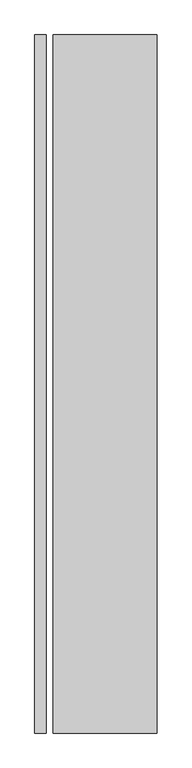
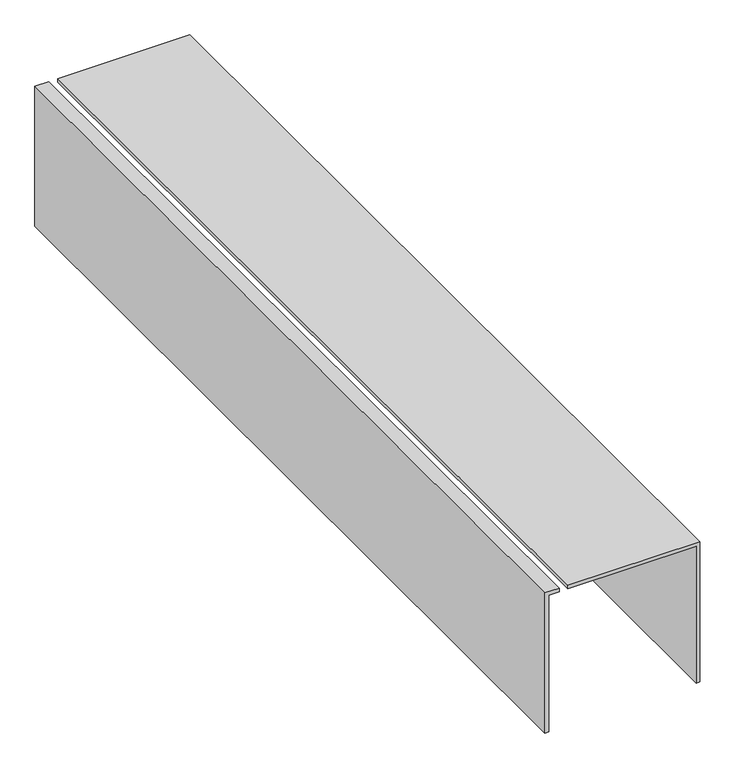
"""IFC4 building model written with IfcOpenShell, lengths in millimetres: furniture geometry, Cenefa cortina de enrollar : Cenefa cortina de enrollar."""

import ifcopenshell
import ifcopenshell.guid

model = None  # the IFC model being written
_history = None  # IfcOwnerHistory: only IFC2X3 demands one
_inside = {}  # id of a spatial element -> (the spatial element, [elements in it])
_under = {}  # id of a project, library or spatial element -> (it, [spatial elements below it])
_declared = {}  # id of a project -> (the project, [libraries it declares])
_typed = {}  # id of a type object -> (the type object, [elements of that type])
_made_of = {}  # id of a material, layer set ... -> (it, [elements and type objects made of it])


def new_model(schema):
    """Start an empty IFC model of exactly this schema.

    Asked for "IFC4X3", IfcOpenShell would pick the latest addendum, in which some entities
    have other attributes; the version numbers below select the first issue.
    IFC2X3 requires an IfcOwnerHistory on every rooted entity: one is made here for all.
    """
    global model, _history
    if schema == "IFC4X3":
        model = ifcopenshell.file(schema_version=(4, 3, 0, 0))
    else:
        model = ifcopenshell.file(schema=schema)
    _inside.clear()
    _under.clear()
    _declared.clear()
    _typed.clear()
    _made_of.clear()
    _history = None
    if model.schema == "IFC2X3":
        org = make("IfcOrganization", Name="unknown")
        user = make(
            "IfcPersonAndOrganization",
            ThePerson=make("IfcPerson", FamilyName="unknown"),
            TheOrganization=org,
        )
        app = make(
            "IfcApplication",
            ApplicationDeveloper=org,
            Version="unknown",
            ApplicationFullName="unknown",
            ApplicationIdentifier="unknown",
        )
        _history = make(
            "IfcOwnerHistory",
            OwningUser=user,
            OwningApplication=app,
            ChangeAction="ADDED",
            CreationDate=0,
        )
    return model


def make(cls, **values):
    """One entity of the class cls with the attributes given. An attribute that is None is left unset."""
    return model.create_entity(
        cls, **{name: value for name, value in values.items() if value is not None}
    )


def rooted(cls, **values):
    """An entity with a GlobalId (a new one), such as an element, a storey or a relation."""
    return make(cls, GlobalId=ifcopenshell.guid.new(), OwnerHistory=_history, **values)


def si_unit(unit_type, name, prefix=None):
    """IfcSIUnit, for example si_unit("LENGTHUNIT", "METRE", prefix="MILLI")."""
    return make("IfcSIUnit", UnitType=unit_type, Prefix=prefix, Name=name)


def assignment(units):
    """IfcUnitAssignment: the units of a project."""
    return None if units is None else make("IfcUnitAssignment", Units=units)


def point(xyz):
    """IfcCartesianPoint."""
    return None if xyz is None else make("IfcCartesianPoint", Coordinates=xyz)


def direction(xyz):
    """IfcDirection."""
    return None if xyz is None else make("IfcDirection", DirectionRatios=xyz)


def frame(location, z_axis=None, x_axis=None):
    """IfcAxis2Placement3D, a coordinate frame: its origin and axes. An axis left out is left unset."""
    return make(
        "IfcAxis2Placement3D",
        Location=point(location),
        Axis=direction(z_axis),
        RefDirection=direction(x_axis),
    )


def origin():
    """The frame at (0, 0, 0) with its axes left unset."""
    return frame((0.0, 0.0, 0.0))


def place(relative_to, where):
    """IfcLocalPlacement: puts the frame where relative to a parent placement (None: the world)."""
    return make(
        "IfcLocalPlacement", PlacementRelTo=relative_to, RelativePlacement=where
    )


def context(
    kind, dimensions, precision=None, world=None, true_north=None, identifier=None
):
    """IfcGeometricRepresentationContext, for example the 3D "Model" context."""
    return make(
        "IfcGeometricRepresentationContext",
        ContextIdentifier=identifier,
        ContextType=kind,
        CoordinateSpaceDimension=dimensions,
        Precision=precision,
        WorldCoordinateSystem=world,
        TrueNorth=true_north,
    )


def project(units=None, contexts=None):
    """IfcProject with its units and contexts."""
    return rooted(
        "IfcProject",
        Name="project",
        RepresentationContexts=contexts,
        UnitsInContext=assignment(units),
    )


def spatial(cls, under=None, at=None, **own):
    """A site, building, storey or space (cls), placed at a placement, below another one or the project."""
    s = rooted(cls, ObjectPlacement=at, **own)
    if under is not None:
        _under.setdefault(under.id(), (under, []))[1].append(s)
    return s


def polyline(points):
    """IfcPolyline through the points."""
    return make("IfcPolyline", Points=[point(p) for p in points])


def outline(outer, holes=None, kind="AREA"):
    """IfcArbitraryClosedProfileDef: a profile drawn as a closed curve; with holes, ...WithVoids."""
    if holes is None:
        return make("IfcArbitraryClosedProfileDef", ProfileType=kind, OuterCurve=outer)
    return make(
        "IfcArbitraryProfileDefWithVoids",
        ProfileType=kind,
        OuterCurve=outer,
        InnerCurves=holes,
    )


def extrude(swept, where, along, depth):
    """IfcExtrudedAreaSolid: the profile swept, set in the frame where, extruded along a direction by depth."""
    return make(
        "IfcExtrudedAreaSolid",
        SweptArea=swept,
        Position=where,
        ExtrudedDirection=direction(along),
        Depth=depth,
    )


def shape(context_of_items, identifier, shape_type, items):
    """IfcShapeRepresentation: the items that make up one representation, for example the "Body"."""
    return make(
        "IfcShapeRepresentation",
        ContextOfItems=context_of_items,
        RepresentationIdentifier=identifier,
        RepresentationType=shape_type,
        Items=items,
    )


def source(mapping_origin, context_of_items, identifier, shape_type, items):
    """IfcRepresentationMap: a shape defined once, which mapped items show again and again."""
    return make(
        "IfcRepresentationMap",
        MappingOrigin=mapping_origin,
        MappedRepresentation=shape(context_of_items, identifier, shape_type, items),
    )


def transform(
    local_origin,
    x_axis=None,
    y_axis=None,
    z_axis=None,
    scale=None,
    scale2=None,
    scale3=None,
    uniform=True,
):
    """IfcCartesianTransformationOperator3D, or its non-uniform kind. x_axis, y_axis, z_axis: its Axis1, 2, 3."""
    if uniform:
        return make(
            "IfcCartesianTransformationOperator3D",
            Axis1=direction(x_axis),
            Axis2=direction(y_axis),
            LocalOrigin=point(local_origin),
            Scale=scale,
            Axis3=direction(z_axis),
        )
    return make(
        "IfcCartesianTransformationOperator3DnonUniform",
        Axis1=direction(x_axis),
        Axis2=direction(y_axis),
        LocalOrigin=point(local_origin),
        Scale=scale,
        Axis3=direction(z_axis),
        Scale2=scale2,
        Scale3=scale3,
    )


def mapped(mapping_source, mapping_target):
    """IfcMappedItem: shows the shape of a source again, moved by a transform."""
    return make(
        "IfcMappedItem", MappingSource=mapping_source, MappingTarget=mapping_target
    )


def made_of(thing, what):
    """Note that an element or type object is made of a material, layer set ...; save() writes the relation."""
    if what is not None:
        _made_of.setdefault(what.id(), (what, []))[1].append(thing)
    return thing


def element(
    cls,
    number,
    at=None,
    inside=None,
    cuts=None,
    type_object=None,
    material=None,
    context=None,
    identifier="Body",
    shape_type=None,
    held_by="IfcProductDefinitionShape",
    body=None,
    shapes=None,
    **own,
):
    """One element of the class cls, such as IfcWall. Its Tag is "e" and its number.

    at: its placement. inside: the storey or other place that contains it. cuts: it is an
    opening in that element (IfcRelVoidsElement). A single representation is given by context,
    identifier, shape_type and body (its items); several are given by shapes. held_by: the class
    of the entity that holds the representations. save() writes the other relations.
    """
    e = rooted(cls, Tag="e%d" % number, ObjectPlacement=at, **own)
    if body is not None:
        shapes = [shape(context, identifier, shape_type, body)]
    if shapes is not None:
        e.Representation = make(held_by, Representations=shapes)
    if inside is not None:
        _inside.setdefault(inside.id(), (inside, []))[1].append(e)
    if cuts is not None:
        rooted(
            "IfcRelVoidsElement", RelatingBuildingElement=cuts, RelatedOpeningElement=e
        )
    if type_object is not None:
        _typed.setdefault(type_object.id(), (type_object, []))[1].append(e)
    return made_of(e, material)


def aggregate(whole, parts):
    """IfcRelAggregates: a whole, such as a stair, and the parts it consists of."""
    return rooted("IfcRelAggregates", RelatingObject=whole, RelatedObjects=parts)


def save(model, path):
    """Write the relations noted so far, then the file.

    IfcRelAggregates (storeys below a building ...), IfcRelContainedInSpatialStructure (elements
    in a storey), IfcRelDefinesByType, IfcRelAssociatesMaterial and IfcRelDeclares: one each for
    every whole, place, type object, material and project.
    """
    for whole, parts in _under.values():
        aggregate(whole, parts)
    for where, things in _inside.values():
        rooted(
            "IfcRelContainedInSpatialStructure",
            RelatedElements=things,
            RelatingStructure=where,
        )
    for kind, things in _typed.values():
        rooted("IfcRelDefinesByType", RelatedObjects=things, RelatingType=kind)
    for what, things in _made_of.values():
        rooted("IfcRelAssociatesMaterial", RelatedObjects=things, RelatingMaterial=what)
    for by, libraries in _declared.values():
        rooted("IfcRelDeclares", RelatingContext=by, RelatedDefinitions=libraries)
    model.write(path)


def furniture_4eb7cf04(model_context):
    return source(origin(), model_context, "Body", "SweptSolid", [
        extrude(outline(polyline([(500.0, -261.25), (0.0, -261.25), (0.0, -248.75), (487.5, -248.75), (487.5, -213.75), (500.0, -213.75), (500.0, -261.25)])), frame((0.0, 0.0, 0.0), z_axis=(0.0, 1.0, 0.0), x_axis=(0.0, 0.0, 1.0)), (0.0, 0.0, 1.0), 2980.0),
        extrude(outline(polyline([(500.0, 261.25), (500.0, -183.75), (487.5, -183.75), (487.5, 248.75), (0.0, 248.75), (0.0, 261.25), (500.0, 261.25)])), frame((0.0, 0.0, 0.0), z_axis=(0.0, 1.0, 0.0), x_axis=(0.0, 0.0, 1.0)), (0.0, 0.0, 1.0), 2980.0),
    ])


if __name__ == "__main__":
    model = new_model("IFC4")
    model_context = context("Model", 3, world=origin())
    ifc_project = project(units=[si_unit("LENGTHUNIT", "METRE", prefix="MILLI")], contexts=[model_context])
    site = spatial("IfcSite", under=ifc_project)
    building = spatial("IfcBuilding", under=site)
    placement = place(None, origin())
    furniture_shape = furniture_4eb7cf04(model_context)
    element("IfcFurniture", 1, ObjectType="Cenefa cortina de enrollar : Cenefa cortina de enrollar", at=placement, inside=building, context=model_context, shape_type="MappedRepresentation", body=[
        mapped(furniture_shape, transform((0.0, 0.0, 0.0), x_axis=(1.0, 0.0, 0.0), y_axis=(0.0, 1.0, 0.0), z_axis=(0.0, 0.0, 1.0))),
    ])
    save(model, "model.ifc")
